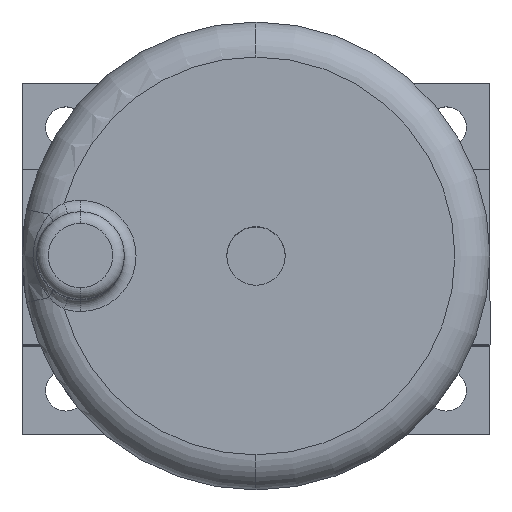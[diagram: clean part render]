
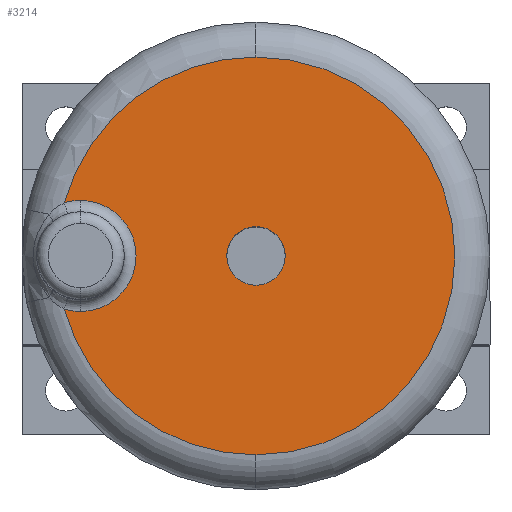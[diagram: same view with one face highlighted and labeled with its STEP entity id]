
A CAD part, top view. The second image highlights one B-rep face of the part: STEP entity #3214.
In plain terms, the highlighted planar face has unit normal (0, 0, 1) as drawn and (1, 0, 0) by its records, which use the part's own axes.
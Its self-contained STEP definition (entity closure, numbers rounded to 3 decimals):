
#31 = AXIS2_PLACEMENT_3D ( 'NONE', #1686, #606, #471 ) ;
#82 = EDGE_CURVE ( 'NONE', #2014, #2547, #2402, .T. ) ;
#123 = CIRCLE ( 'NONE', #1901, 34. ) ;
#373 = EDGE_LOOP ( 'NONE', ( #2415, #2743, #974, #3105, #3391, #2335 ) ) ;
#390 = AXIS2_PLACEMENT_3D ( 'NONE', #661, #1746, #955 ) ;
#471 = DIRECTION ( 'NONE',  ( 0., 0., -1. ) ) ;
#606 = DIRECTION ( 'NONE',  ( 1., 0., 0. ) ) ;
#638 = EDGE_CURVE ( 'NONE', #1203, #2360, #1563, .T. ) ;
#661 = CARTESIAN_POINT ( 'NONE',  ( 46., 0., 0. ) ) ;
#664 = CARTESIAN_POINT ( 'NONE',  ( 46., 0., -5. ) ) ;
#689 = CARTESIAN_POINT ( 'NONE',  ( 46., 30., 0. ) ) ;
#728 = CARTESIAN_POINT ( 'NONE',  ( 46., 0., 0. ) ) ;
#813 = CIRCLE ( 'NONE', #2441, 34. ) ;
#829 = DIRECTION ( 'NONE',  ( 1., 0., 0. ) ) ;
#955 = DIRECTION ( 'NONE',  ( 0., 0., 1. ) ) ;
#974 = ORIENTED_EDGE ( 'NONE', *, *, #2350, .T. ) ;
#1006 = CIRCLE ( 'NONE', #390, 34. ) ;
#1031 = EDGE_CURVE ( 'NONE', #2932, #2746, #123, .T. ) ;
#1059 = AXIS2_PLACEMENT_3D ( 'NONE', #689, #3426, #1739 ) ;
#1090 = CIRCLE ( 'NONE', #31, 5. ) ;
#1113 = ORIENTED_EDGE ( 'NONE', *, *, #3484, .F. ) ;
#1203 = VERTEX_POINT ( 'NONE', #2263 ) ;
#1291 = CARTESIAN_POINT ( 'NONE',  ( 46., 30., 0. ) ) ;
#1386 = AXIS2_PLACEMENT_3D ( 'NONE', #1412, #1402, #3346 ) ;
#1402 = DIRECTION ( 'NONE',  ( -1., 0., 0. ) ) ;
#1412 = CARTESIAN_POINT ( 'NONE',  ( 46., 30., 0. ) ) ;
#1563 = CIRCLE ( 'NONE', #1059, 9.5 ) ;
#1626 = CARTESIAN_POINT ( 'NONE',  ( 46., 30., -9.5 ) ) ;
#1636 = CARTESIAN_POINT ( 'NONE',  ( 46., 0., 0. ) ) ;
#1686 = CARTESIAN_POINT ( 'NONE',  ( 46., 0., 0. ) ) ;
#1703 = AXIS2_PLACEMENT_3D ( 'NONE', #1291, #1793, #2668 ) ;
#1710 = EDGE_CURVE ( 'NONE', #2360, #1997, #3401, .T. ) ;
#1739 = DIRECTION ( 'NONE',  ( 0., 0., 1. ) ) ;
#1746 = DIRECTION ( 'NONE',  ( 1., 0., 0. ) ) ;
#1793 = DIRECTION ( 'NONE',  ( -1., 0., 0. ) ) ;
#1901 = AXIS2_PLACEMENT_3D ( 'NONE', #3062, #1922, #2815 ) ;
#1922 = DIRECTION ( 'NONE',  ( 1., 0., 0. ) ) ;
#1997 = VERTEX_POINT ( 'NONE', #2677 ) ;
#2014 = VERTEX_POINT ( 'NONE', #2747 ) ;
#2235 = AXIS2_PLACEMENT_3D ( 'NONE', #2776, #829, #2759 ) ;
#2263 = CARTESIAN_POINT ( 'NONE',  ( 46., 32.763, -9.089 ) ) ;
#2267 = ORIENTED_EDGE ( 'NONE', *, *, #82, .F. ) ;
#2335 = ORIENTED_EDGE ( 'NONE', *, *, #2489, .T. ) ;
#2343 = FACE_OUTER_BOUND ( 'NONE', #373, .T. ) ;
#2350 = EDGE_CURVE ( 'NONE', #2746, #1203, #813, .T. ) ;
#2360 = VERTEX_POINT ( 'NONE', #1626 ) ;
#2402 = CIRCLE ( 'NONE', #2235, 5. ) ;
#2415 = ORIENTED_EDGE ( 'NONE', *, *, #2852, .T. ) ;
#2441 = AXIS2_PLACEMENT_3D ( 'NONE', #1636, #2736, #3601 ) ;
#2464 = VERTEX_POINT ( 'NONE', #2497 ) ;
#2489 = EDGE_CURVE ( 'NONE', #1997, #2464, #3555, .T. ) ;
#2497 = CARTESIAN_POINT ( 'NONE',  ( 46., 32.763, 9.089 ) ) ;
#2547 = VERTEX_POINT ( 'NONE', #664 ) ;
#2668 = DIRECTION ( 'NONE',  ( 0., 0., 1. ) ) ;
#2677 = CARTESIAN_POINT ( 'NONE',  ( 46., 30., 9.5 ) ) ;
#2719 = AXIS2_PLACEMENT_3D ( 'NONE', #728, #2961, #3204 ) ;
#2736 = DIRECTION ( 'NONE',  ( 1., 0., 0. ) ) ;
#2743 = ORIENTED_EDGE ( 'NONE', *, *, #1031, .T. ) ;
#2746 = VERTEX_POINT ( 'NONE', #3243 ) ;
#2747 = CARTESIAN_POINT ( 'NONE',  ( 46., 0., 5. ) ) ;
#2759 = DIRECTION ( 'NONE',  ( 0., 0., -1. ) ) ;
#2776 = CARTESIAN_POINT ( 'NONE',  ( 46., 0., 0. ) ) ;
#2815 = DIRECTION ( 'NONE',  ( 0., 0., 1. ) ) ;
#2852 = EDGE_CURVE ( 'NONE', #2464, #2932, #1006, .T. ) ;
#2876 = CARTESIAN_POINT ( 'NONE',  ( 46., 0., 34. ) ) ;
#2932 = VERTEX_POINT ( 'NONE', #2876 ) ;
#2958 = FACE_BOUND ( 'NONE', #3455, .T. ) ;
#2961 = DIRECTION ( 'NONE',  ( -1., 0., 0. ) ) ;
#3062 = CARTESIAN_POINT ( 'NONE',  ( 46., 0., 0. ) ) ;
#3105 = ORIENTED_EDGE ( 'NONE', *, *, #638, .T. ) ;
#3204 = DIRECTION ( 'NONE',  ( 0., 0., 1. ) ) ;
#3214 = ADVANCED_FACE ( 'NONE', ( #2343, #2958 ), #3500, .F. ) ;
#3243 = CARTESIAN_POINT ( 'NONE',  ( 46., 0., -34. ) ) ;
#3346 = DIRECTION ( 'NONE',  ( 0., 0., 1. ) ) ;
#3391 = ORIENTED_EDGE ( 'NONE', *, *, #1710, .T. ) ;
#3401 = CIRCLE ( 'NONE', #1703, 9.5 ) ;
#3426 = DIRECTION ( 'NONE',  ( -1., 0., 0. ) ) ;
#3455 = EDGE_LOOP ( 'NONE', ( #1113, #2267 ) ) ;
#3484 = EDGE_CURVE ( 'NONE', #2547, #2014, #1090, .T. ) ;
#3500 = PLANE ( 'NONE',  #2719 ) ;
#3555 = CIRCLE ( 'NONE', #1386, 9.5 ) ;
#3601 = DIRECTION ( 'NONE',  ( 0., 0., 1. ) ) ;
